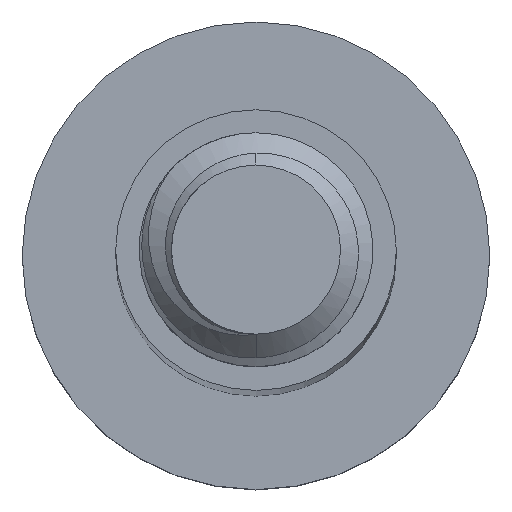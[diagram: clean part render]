
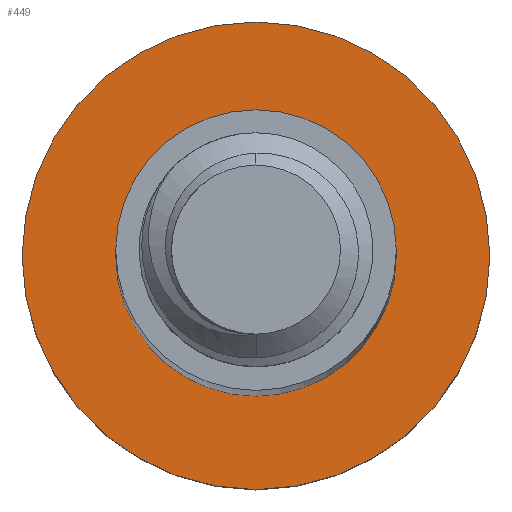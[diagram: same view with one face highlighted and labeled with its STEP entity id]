
A CAD part, top view. The second image highlights one B-rep face of the part: STEP entity #449.
In plain terms, the highlighted planar face has unit normal (0, 0, 1).
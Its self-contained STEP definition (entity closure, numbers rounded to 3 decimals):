
#85 = CARTESIAN_POINT ( 'NONE',  ( 0., 0., -70. ) ) ;
#113 = CARTESIAN_POINT ( 'NONE',  ( 0., 0., -70. ) ) ;
#139 = VERTEX_POINT ( 'NONE', #406 ) ;
#181 = EDGE_CURVE ( 'NONE', #2396, #1061, #2135, .T. ) ;
#265 = CARTESIAN_POINT ( 'NONE',  ( -5., 0., -70. ) ) ;
#388 = AXIS2_PLACEMENT_3D ( 'NONE', #1783, #1382, #2331 ) ;
#406 = CARTESIAN_POINT ( 'NONE',  ( 5., 0., -70. ) ) ;
#419 = ORIENTED_EDGE ( 'NONE', *, *, #181, .T. ) ;
#427 = CARTESIAN_POINT ( 'NONE',  ( 0., 0., -70. ) ) ;
#449 = ADVANCED_FACE ( 'NONE', ( #1180, #1932 ), #1754, .F. ) ;
#500 = AXIS2_PLACEMENT_3D ( 'NONE', #113, #849, #2316 ) ;
#523 = ORIENTED_EDGE ( 'NONE', *, *, #699, .T. ) ;
#591 = ORIENTED_EDGE ( 'NONE', *, *, #1901, .F. ) ;
#635 = CARTESIAN_POINT ( 'NONE',  ( 3., 0., -70. ) ) ;
#699 = EDGE_CURVE ( 'NONE', #1061, #2396, #988, .T. ) ;
#725 = DIRECTION ( 'NONE',  ( -1., 0., 0. ) ) ;
#812 = DIRECTION ( 'NONE',  ( -1., 0., 0. ) ) ;
#824 = AXIS2_PLACEMENT_3D ( 'NONE', #85, #1378, #812 ) ;
#825 = CARTESIAN_POINT ( 'NONE',  ( -3., 0., -70. ) ) ;
#849 = DIRECTION ( 'NONE',  ( 0., 0., -1. ) ) ;
#904 = CARTESIAN_POINT ( 'NONE',  ( 0., 0., -70. ) ) ;
#988 = CIRCLE ( 'NONE', #2133, 3. ) ;
#1061 = VERTEX_POINT ( 'NONE', #635 ) ;
#1077 = CIRCLE ( 'NONE', #1598, 5. ) ;
#1180 = FACE_BOUND ( 'NONE', #1602, .T. ) ;
#1376 = EDGE_LOOP ( 'NONE', ( #591, #1660 ) ) ;
#1378 = DIRECTION ( 'NONE',  ( 0., 0., -1. ) ) ;
#1382 = DIRECTION ( 'NONE',  ( 0., 0., -1. ) ) ;
#1430 = VERTEX_POINT ( 'NONE', #265 ) ;
#1598 = AXIS2_PLACEMENT_3D ( 'NONE', #427, #2314, #2338 ) ;
#1602 = EDGE_LOOP ( 'NONE', ( #419, #523 ) ) ;
#1660 = ORIENTED_EDGE ( 'NONE', *, *, #2378, .F. ) ;
#1679 = DIRECTION ( 'NONE',  ( 0., 0., -1. ) ) ;
#1754 = PLANE ( 'NONE',  #824 ) ;
#1783 = CARTESIAN_POINT ( 'NONE',  ( 0., 0., -70. ) ) ;
#1901 = EDGE_CURVE ( 'NONE', #139, #1430, #1077, .T. ) ;
#1932 = FACE_OUTER_BOUND ( 'NONE', #1376, .T. ) ;
#2133 = AXIS2_PLACEMENT_3D ( 'NONE', #904, #1679, #725 ) ;
#2135 = CIRCLE ( 'NONE', #500, 3. ) ;
#2213 = CIRCLE ( 'NONE', #388, 5. ) ;
#2314 = DIRECTION ( 'NONE',  ( 0., 0., -1. ) ) ;
#2316 = DIRECTION ( 'NONE',  ( -1., 0., 0. ) ) ;
#2331 = DIRECTION ( 'NONE',  ( -1., 0., 0. ) ) ;
#2338 = DIRECTION ( 'NONE',  ( -1., 0., 0. ) ) ;
#2378 = EDGE_CURVE ( 'NONE', #1430, #139, #2213, .T. ) ;
#2396 = VERTEX_POINT ( 'NONE', #825 ) ;
